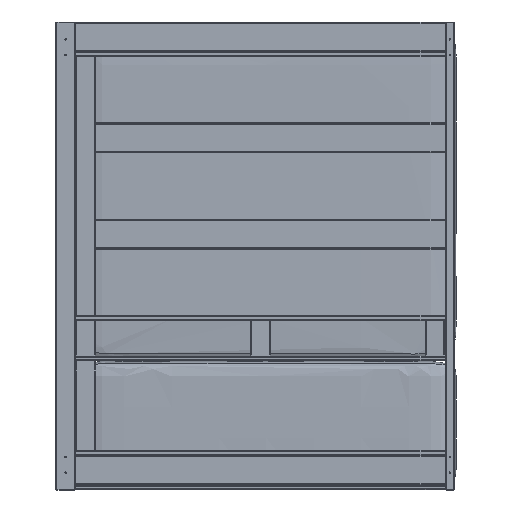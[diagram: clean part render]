
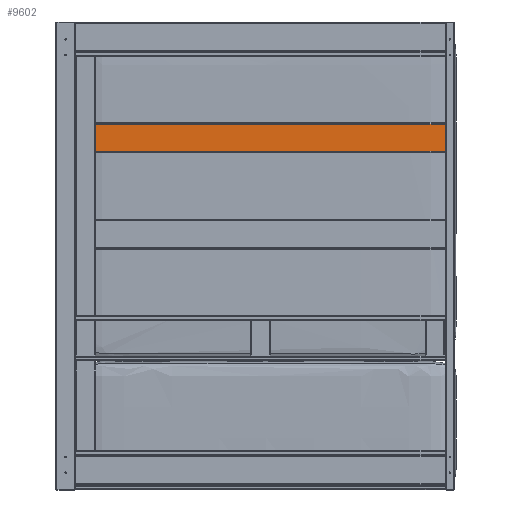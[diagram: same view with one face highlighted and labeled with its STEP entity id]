
A CAD part, front view. The second image highlights one B-rep face of the part: STEP entity #9602.
In plain terms, the highlighted planar face has unit normal (0, -1, 0) as drawn and (1, 0, 0) by its records, which use the part's own axes.
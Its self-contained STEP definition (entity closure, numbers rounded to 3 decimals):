
#1565=LINE('',#21164,#2437);
#1566=LINE('',#21166,#2438);
#1567=LINE('',#21168,#2439);
#1568=LINE('',#21169,#2440);
#2437=VECTOR('',#13473,10.);
#2438=VECTOR('',#13474,10.);
#2439=VECTOR('',#13475,10.);
#2440=VECTOR('',#13476,10.);
#2870=PLANE('',#11073);
#3438=FACE_OUTER_BOUND('',#4024,.T.);
#4024=EDGE_LOOP('',(#8458,#8459,#8460,#8461));
#4873=VERTEX_POINT('',#21162);
#4874=VERTEX_POINT('',#21163);
#4875=VERTEX_POINT('',#21165);
#4876=VERTEX_POINT('',#21167);
#6111=EDGE_CURVE('',#4873,#4874,#1565,.T.);
#6112=EDGE_CURVE('',#4875,#4874,#1566,.T.);
#6113=EDGE_CURVE('',#4876,#4875,#1567,.T.);
#6114=EDGE_CURVE('',#4876,#4873,#1568,.T.);
#8458=ORIENTED_EDGE('',*,*,#6111,.T.);
#8459=ORIENTED_EDGE('',*,*,#6112,.F.);
#8460=ORIENTED_EDGE('',*,*,#6113,.F.);
#8461=ORIENTED_EDGE('',*,*,#6114,.T.);
#9602=ADVANCED_FACE('',(#3438),#2870,.T.);
#11073=AXIS2_PLACEMENT_3D('',#21161,#13471,#13472);
#13471=DIRECTION('center_axis',(1.,0.,0.));
#13472=DIRECTION('ref_axis',(0.,0.,-1.));
#13473=DIRECTION('',(0.,-1.,0.));
#13474=DIRECTION('',(0.,0.,1.));
#13475=DIRECTION('',(0.,-1.,0.));
#13476=DIRECTION('',(0.,0.,1.));
#21161=CARTESIAN_POINT('Origin',(5.,27.75,0.));
#21162=CARTESIAN_POINT('',(5.,27.75,750.));
#21163=CARTESIAN_POINT('',(5.,-27.75,750.));
#21164=CARTESIAN_POINT('',(5.,13.875,750.));
#21165=CARTESIAN_POINT('',(5.,-27.75,40.));
#21166=CARTESIAN_POINT('',(5.,-27.75,0.));
#21167=CARTESIAN_POINT('',(5.,27.75,40.));
#21168=CARTESIAN_POINT('',(5.,13.875,40.));
#21169=CARTESIAN_POINT('',(5.,27.75,0.));
